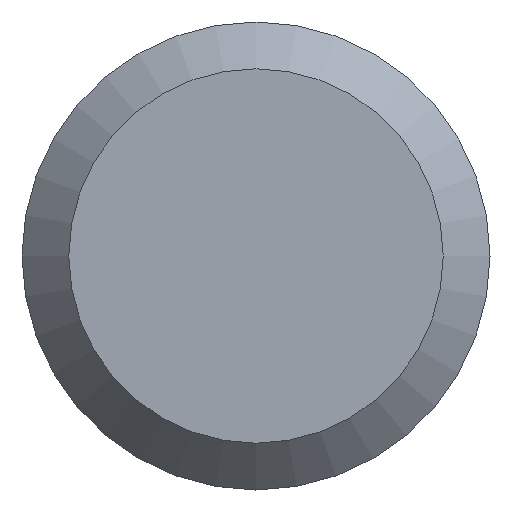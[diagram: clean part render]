
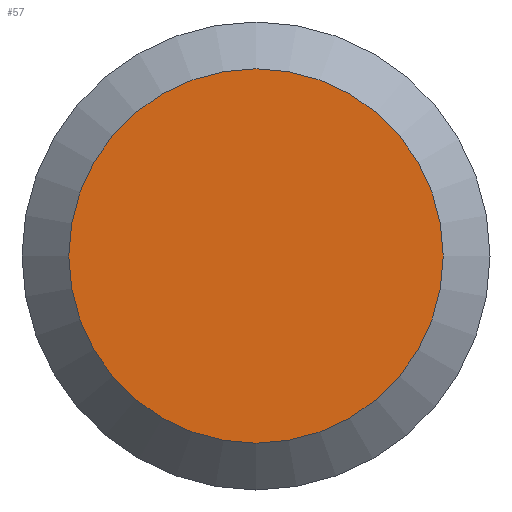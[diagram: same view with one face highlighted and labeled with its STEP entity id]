
A CAD part, left-side view. The second image highlights one B-rep face of the part: STEP entity #57.
In plain terms, the highlighted planar face has unit normal (-1, 0, 0).
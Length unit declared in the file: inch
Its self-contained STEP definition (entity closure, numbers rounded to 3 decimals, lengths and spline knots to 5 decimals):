
#10 = AXIS2_PLACEMENT_3D ( 'NONE', #140, #139, #138 ) ;
#18 = EDGE_LOOP ( 'NONE', ( #169 ) ) ;
#39 = CARTESIAN_POINT ( 'NONE',  ( 0., 0.10938, 0. ) ) ;
#57 = ADVANCED_FACE ( 'NONE', ( #204 ), #65, .F. ) ;
#65 = PLANE ( 'NONE',  #84 ) ;
#84 = AXIS2_PLACEMENT_3D ( 'NONE', #39, #197, #216 ) ;
#92 = CARTESIAN_POINT ( 'NONE',  ( 0., 0., -0.0875 ) ) ;
#138 = DIRECTION ( 'NONE',  ( 0., 0., -1. ) ) ;
#139 = DIRECTION ( 'NONE',  ( -1., 0., 0. ) ) ;
#140 = CARTESIAN_POINT ( 'NONE',  ( 0., 0., 0. ) ) ;
#169 = ORIENTED_EDGE ( 'NONE', *, *, #221, .T. ) ;
#197 = DIRECTION ( 'NONE',  ( 1., 0., 0. ) ) ;
#204 = FACE_OUTER_BOUND ( 'NONE', #18, .T. ) ;
#212 = CIRCLE ( 'NONE', #10, 0.0875 ) ;
#216 = DIRECTION ( 'NONE',  ( 0., 0., -1. ) ) ;
#220 = VERTEX_POINT ( 'NONE', #92 ) ;
#221 = EDGE_CURVE ( 'NONE', #220, #220, #212, .T. ) ;
